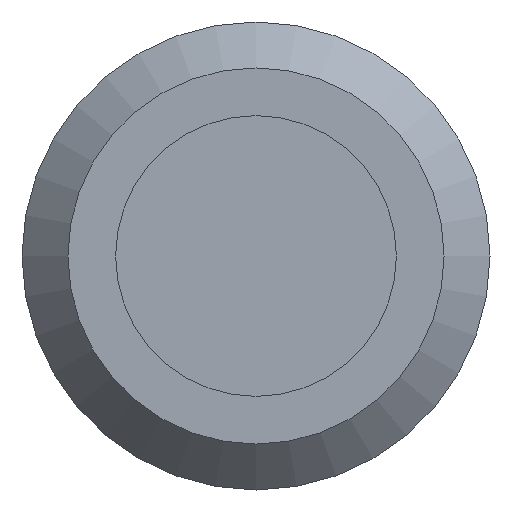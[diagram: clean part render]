
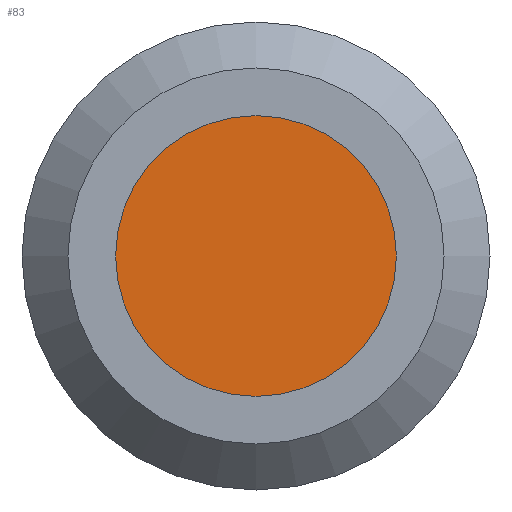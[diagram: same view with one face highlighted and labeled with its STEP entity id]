
A CAD part, front view. The second image highlights one B-rep face of the part: STEP entity #83.
In plain terms, the highlighted planar face has unit normal (0, -1, 0).
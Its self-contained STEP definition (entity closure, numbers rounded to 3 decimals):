
#83 = ADVANCED_FACE( '', ( #107 ), #108, .F. );
#107 = FACE_OUTER_BOUND( '', #141, .T. );
#108 = PLANE( '', #142 );
#141 = EDGE_LOOP( '', ( #219 ) );
#142 = AXIS2_PLACEMENT_3D( '', #220, #221, #222 );
#219 = ORIENTED_EDGE( '', *, *, #267, .T. );
#220 = CARTESIAN_POINT( '', ( 1.5, 0., 0. ) );
#221 = DIRECTION( '', ( 0., 1., 0. ) );
#222 = DIRECTION( '', ( 0., 0., 1. ) );
#267 = EDGE_CURVE( '', #304, #304, #305, .T. );
#304 = VERTEX_POINT( '', #364 );
#305 = CIRCLE( '', #365, 1.5 );
#364 = CARTESIAN_POINT( '', ( 0., 0., -1.5 ) );
#365 = AXIS2_PLACEMENT_3D( '', #395, #396, #397 );
#395 = CARTESIAN_POINT( '', ( 0., 0., 0. ) );
#396 = DIRECTION( '', ( 0., -1., 0. ) );
#397 = DIRECTION( '', ( 0., 0., -1. ) );
